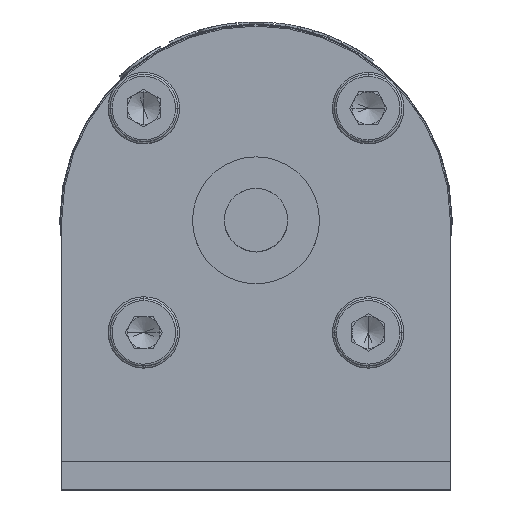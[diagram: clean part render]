
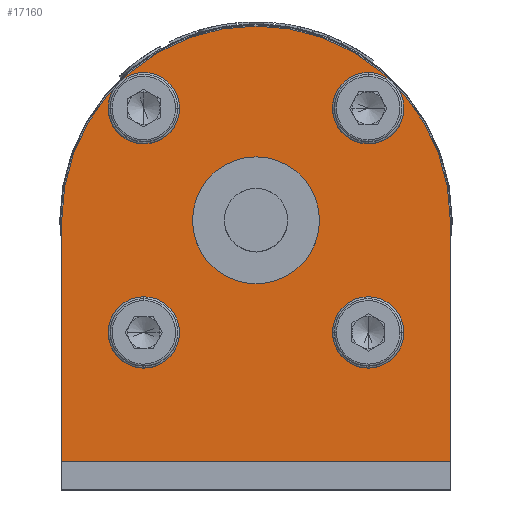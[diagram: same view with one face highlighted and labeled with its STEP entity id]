
A CAD part, top view. The second image highlights one B-rep face of the part: STEP entity #17160.
In plain terms, the highlighted planar face has unit normal (0, 0, 1).
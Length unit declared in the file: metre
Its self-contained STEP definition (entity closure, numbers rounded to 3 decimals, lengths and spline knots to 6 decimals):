
#84 = VERTEX_POINT ( 'NONE', #17423 ) ;
#176 = AXIS2_PLACEMENT_3D ( 'NONE', #4282, #14622, #5724 ) ;
#245 = PLANE ( 'NONE',  #984 ) ;
#304 = EDGE_LOOP ( 'NONE', ( #3703, #16007, #939, #7163 ) ) ;
#662 = CARTESIAN_POINT ( 'NONE',  ( 0.016892, 0.014142, 0.0036 ) ) ;
#827 = AXIS2_PLACEMENT_3D ( 'NONE', #6484, #16713, #8007 ) ;
#939 = ORIENTED_EDGE ( 'NONE', *, *, #13520, .T. ) ;
#984 = AXIS2_PLACEMENT_3D ( 'NONE', #9128, #1778, #12111 ) ;
#1003 = DIRECTION ( 'NONE',  ( 0., 0., -1. ) ) ;
#1359 = FACE_BOUND ( 'NONE', #12824, .T. ) ;
#1542 = CARTESIAN_POINT ( 'NONE',  ( -0.014142, 0.014142, 0.0036 ) ) ;
#1778 = DIRECTION ( 'NONE',  ( 0., 0., 1. ) ) ;
#1837 = CARTESIAN_POINT ( 'NONE',  ( 0.011392, 0.014142, 0.0036 ) ) ;
#2182 = CARTESIAN_POINT ( 'NONE',  ( -0.0245, 0., 0.0036 ) ) ;
#2202 = ORIENTED_EDGE ( 'NONE', *, *, #12522, .T. ) ;
#2268 = FACE_BOUND ( 'NONE', #3235, .T. ) ;
#2324 = AXIS2_PLACEMENT_3D ( 'NONE', #13815, #4906, #15236 ) ;
#2486 = ORIENTED_EDGE ( 'NONE', *, *, #12262, .T. ) ;
#2961 = DIRECTION ( 'NONE',  ( 1., 0., 0. ) ) ;
#3218 = CIRCLE ( 'NONE', #11609, 0.00275 ) ;
#3235 = EDGE_LOOP ( 'NONE', ( #3663, #18685 ) ) ;
#3301 = ORIENTED_EDGE ( 'NONE', *, *, #14132, .T. ) ;
#3620 = ORIENTED_EDGE ( 'NONE', *, *, #14081, .T. ) ;
#3622 = CARTESIAN_POINT ( 'NONE',  ( 0., 0., 0.0036 ) ) ;
#3663 = ORIENTED_EDGE ( 'NONE', *, *, #12682, .T. ) ;
#3703 = ORIENTED_EDGE ( 'NONE', *, *, #13769, .T. ) ;
#3843 = DIRECTION ( 'NONE',  ( 0., 0., 1. ) ) ;
#3910 = CARTESIAN_POINT ( 'NONE',  ( 0.008, 0., 0.0036 ) ) ;
#4282 = CARTESIAN_POINT ( 'NONE',  ( 0.014142, 0.014142, 0.0036 ) ) ;
#4386 = LINE ( 'NONE', #17676, #10424 ) ;
#4424 = CIRCLE ( 'NONE', #8476, 0.008 ) ;
#4476 = CARTESIAN_POINT ( 'NONE',  ( 0.0245, 0., 0.0036 ) ) ;
#4606 = EDGE_LOOP ( 'NONE', ( #11286, #13743 ) ) ;
#4632 = AXIS2_PLACEMENT_3D ( 'NONE', #12725, #3843, #14215 ) ;
#4906 = DIRECTION ( 'NONE',  ( 0., 0., -1. ) ) ;
#5024 = DIRECTION ( 'NONE',  ( 0., 0., -1. ) ) ;
#5095 = DIRECTION ( 'NONE',  ( 1., 0., 0. ) ) ;
#5118 = AXIS2_PLACEMENT_3D ( 'NONE', #1542, #11862, #2961 ) ;
#5221 = FACE_BOUND ( 'NONE', #13351, .T. ) ;
#5293 = VERTEX_POINT ( 'NONE', #15381 ) ;
#5454 = CARTESIAN_POINT ( 'NONE',  ( 0.016892, -0.014142, 0.0036 ) ) ;
#5545 = CIRCLE ( 'NONE', #5118, 0.00275 ) ;
#5548 = VERTEX_POINT ( 'NONE', #1837 ) ;
#5549 = DIRECTION ( 'NONE',  ( 0., 0., -1. ) ) ;
#5724 = DIRECTION ( 'NONE',  ( 1., 0., 0. ) ) ;
#6069 = CARTESIAN_POINT ( 'NONE',  ( -0.014142, -0.014142, 0.0036 ) ) ;
#6484 = CARTESIAN_POINT ( 'NONE',  ( 0.014142, -0.014142, 0.0036 ) ) ;
#6549 = CARTESIAN_POINT ( 'NONE',  ( 0.011392, -0.014142, 0.0036 ) ) ;
#6884 = ORIENTED_EDGE ( 'NONE', *, *, #13879, .T. ) ;
#6921 = CIRCLE ( 'NONE', #176, 0.00275 ) ;
#7100 = VERTEX_POINT ( 'NONE', #10003 ) ;
#7163 = ORIENTED_EDGE ( 'NONE', *, *, #13553, .T. ) ;
#7186 = VERTEX_POINT ( 'NONE', #5454 ) ;
#7238 = CARTESIAN_POINT ( 'NONE',  ( 0., -0.0304, 0.0036 ) ) ;
#7369 = LINE ( 'NONE', #7238, #18390 ) ;
#7559 = DIRECTION ( 'NONE',  ( 1., 0., 0. ) ) ;
#8007 = DIRECTION ( 'NONE',  ( 1., 0., 0. ) ) ;
#8085 = VECTOR ( 'NONE', #18367, 1. ) ;
#8255 = AXIS2_PLACEMENT_3D ( 'NONE', #13939, #5024, #15357 ) ;
#8476 = AXIS2_PLACEMENT_3D ( 'NONE', #15635, #15775, #15804 ) ;
#8587 = VERTEX_POINT ( 'NONE', #12477 ) ;
#8732 = AXIS2_PLACEMENT_3D ( 'NONE', #9824, #1003, #11336 ) ;
#9100 = DIRECTION ( 'NONE',  ( 0., 1., 0. ) ) ;
#9128 = CARTESIAN_POINT ( 'NONE',  ( -0.0245, -0.0304, 0.0036 ) ) ;
#9246 = CIRCLE ( 'NONE', #2324, 0.00275 ) ;
#9824 = CARTESIAN_POINT ( 'NONE',  ( -0.014142, -0.014142, 0.0036 ) ) ;
#10003 = CARTESIAN_POINT ( 'NONE',  ( -0.016892, 0.014142, 0.0036 ) ) ;
#10424 = VECTOR ( 'NONE', #9100, 1. ) ;
#11225 = ORIENTED_EDGE ( 'NONE', *, *, #12150, .T. ) ;
#11286 = ORIENTED_EDGE ( 'NONE', *, *, #14164, .F. ) ;
#11305 = CARTESIAN_POINT ( 'NONE',  ( -0.0245, -0.002785, 0.0036 ) ) ;
#11336 = DIRECTION ( 'NONE',  ( 1., 0., 0. ) ) ;
#11609 = AXIS2_PLACEMENT_3D ( 'NONE', #14456, #5549, #15839 ) ;
#11862 = DIRECTION ( 'NONE',  ( 0., 0., -1. ) ) ;
#11977 = EDGE_CURVE ( 'NONE', #84, #15354, #4424, .T. ) ;
#12111 = DIRECTION ( 'NONE',  ( 1., 0., 0. ) ) ;
#12150 = EDGE_CURVE ( 'NONE', #16066, #5548, #6921, .T. ) ;
#12245 = AXIS2_PLACEMENT_3D ( 'NONE', #3622, #14010, #5095 ) ;
#12262 = EDGE_CURVE ( 'NONE', #15800, #7100, #5545, .T. ) ;
#12269 = CIRCLE ( 'NONE', #12245, 0.008 ) ;
#12441 = CARTESIAN_POINT ( 'NONE',  ( -0.0245, -0.0304, 0.0036 ) ) ;
#12477 = CARTESIAN_POINT ( 'NONE',  ( -0.011392, -0.014142, 0.0036 ) ) ;
#12512 = LINE ( 'NONE', #11305, #8085 ) ;
#12517 = VERTEX_POINT ( 'NONE', #12441 ) ;
#12522 = EDGE_CURVE ( 'NONE', #7186, #14710, #14598, .T. ) ;
#12680 = FACE_BOUND ( 'NONE', #4606, .T. ) ;
#12682 = EDGE_CURVE ( 'NONE', #8587, #13479, #12766, .T. ) ;
#12725 = CARTESIAN_POINT ( 'NONE',  ( 0., 0., 0.0036 ) ) ;
#12730 = CIRCLE ( 'NONE', #8255, 0.00275 ) ;
#12766 = CIRCLE ( 'NONE', #8732, 0.00275 ) ;
#12824 = EDGE_LOOP ( 'NONE', ( #11225, #3301 ) ) ;
#13149 = FACE_OUTER_BOUND ( 'NONE', #304, .T. ) ;
#13351 = EDGE_LOOP ( 'NONE', ( #2486, #3620 ) ) ;
#13479 = VERTEX_POINT ( 'NONE', #15981 ) ;
#13520 = EDGE_CURVE ( 'NONE', #12517, #5293, #7369, .T. ) ;
#13535 = EDGE_LOOP ( 'NONE', ( #2202, #6884 ) ) ;
#13553 = EDGE_CURVE ( 'NONE', #5293, #13935, #4386, .T. ) ;
#13743 = ORIENTED_EDGE ( 'NONE', *, *, #11977, .F. ) ;
#13769 = EDGE_CURVE ( 'NONE', #13935, #16072, #15860, .T. ) ;
#13795 = EDGE_CURVE ( 'NONE', #16072, #12517, #12512, .T. ) ;
#13815 = CARTESIAN_POINT ( 'NONE',  ( -0.014142, 0.014142, 0.0036 ) ) ;
#13879 = EDGE_CURVE ( 'NONE', #14710, #7186, #3218, .T. ) ;
#13935 = VERTEX_POINT ( 'NONE', #4476 ) ;
#13939 = CARTESIAN_POINT ( 'NONE',  ( 0.014142, 0.014142, 0.0036 ) ) ;
#14006 = EDGE_CURVE ( 'NONE', #13479, #8587, #17331, .T. ) ;
#14010 = DIRECTION ( 'NONE',  ( 0., 0., 1. ) ) ;
#14081 = EDGE_CURVE ( 'NONE', #7100, #15800, #9246, .T. ) ;
#14132 = EDGE_CURVE ( 'NONE', #5548, #16066, #12730, .T. ) ;
#14164 = EDGE_CURVE ( 'NONE', #15354, #84, #12269, .T. ) ;
#14215 = DIRECTION ( 'NONE',  ( -1., 0., 0. ) ) ;
#14456 = CARTESIAN_POINT ( 'NONE',  ( 0.014142, -0.014142, 0.0036 ) ) ;
#14598 = CIRCLE ( 'NONE', #827, 0.00275 ) ;
#14622 = DIRECTION ( 'NONE',  ( 0., 0., -1. ) ) ;
#14710 = VERTEX_POINT ( 'NONE', #6549 ) ;
#15236 = DIRECTION ( 'NONE',  ( 1., 0., 0. ) ) ;
#15354 = VERTEX_POINT ( 'NONE', #3910 ) ;
#15357 = DIRECTION ( 'NONE',  ( 1., 0., 0. ) ) ;
#15381 = CARTESIAN_POINT ( 'NONE',  ( 0.0245, -0.0304, 0.0036 ) ) ;
#15635 = CARTESIAN_POINT ( 'NONE',  ( 0., 0., 0.0036 ) ) ;
#15775 = DIRECTION ( 'NONE',  ( 0., 0., 1. ) ) ;
#15800 = VERTEX_POINT ( 'NONE', #16205 ) ;
#15804 = DIRECTION ( 'NONE',  ( 1., 0., 0. ) ) ;
#15839 = DIRECTION ( 'NONE',  ( 1., 0., 0. ) ) ;
#15860 = CIRCLE ( 'NONE', #4632, 0.0245 ) ;
#15981 = CARTESIAN_POINT ( 'NONE',  ( -0.016892, -0.014142, 0.0036 ) ) ;
#16007 = ORIENTED_EDGE ( 'NONE', *, *, #13795, .T. ) ;
#16066 = VERTEX_POINT ( 'NONE', #662 ) ;
#16072 = VERTEX_POINT ( 'NONE', #2182 ) ;
#16205 = CARTESIAN_POINT ( 'NONE',  ( -0.011392, 0.014142, 0.0036 ) ) ;
#16326 = DIRECTION ( 'NONE',  ( 0., 0., -1. ) ) ;
#16453 = FACE_BOUND ( 'NONE', #13535, .T. ) ;
#16713 = DIRECTION ( 'NONE',  ( 0., 0., -1. ) ) ;
#17160 = ADVANCED_FACE ( 'NONE', ( #1359, #5221, #2268, #16453, #12680, #13149 ), #245, .T. ) ;
#17331 = CIRCLE ( 'NONE', #18206, 0.00275 ) ;
#17423 = CARTESIAN_POINT ( 'NONE',  ( -0.008, 0., 0.0036 ) ) ;
#17676 = CARTESIAN_POINT ( 'NONE',  ( 0.0245, -0.002785, 0.0036 ) ) ;
#18206 = AXIS2_PLACEMENT_3D ( 'NONE', #6069, #16326, #7559 ) ;
#18367 = DIRECTION ( 'NONE',  ( 0., -1., 0. ) ) ;
#18390 = VECTOR ( 'NONE', #18716, 1. ) ;
#18685 = ORIENTED_EDGE ( 'NONE', *, *, #14006, .T. ) ;
#18716 = DIRECTION ( 'NONE',  ( 1., 0., 0. ) ) ;
